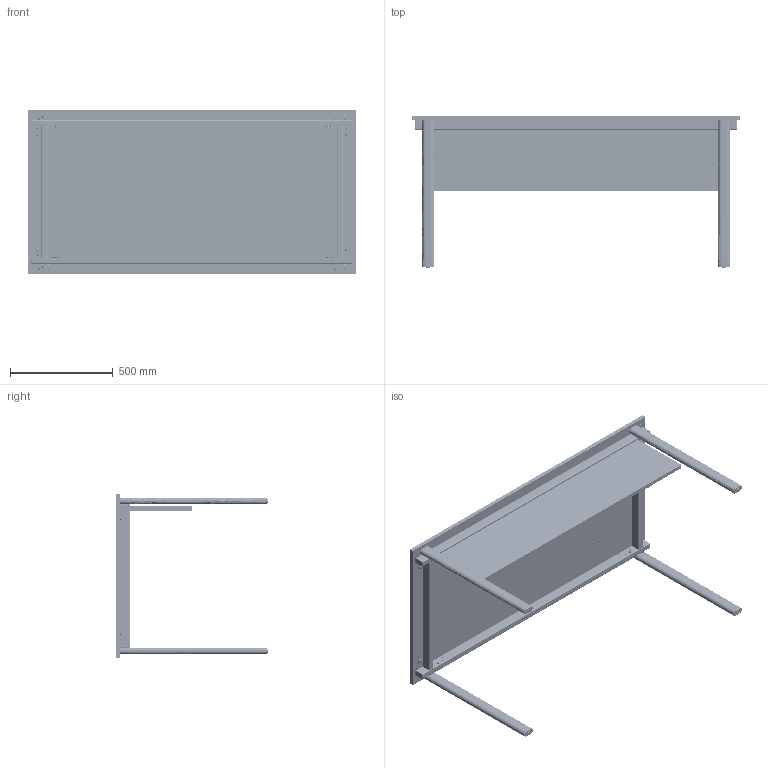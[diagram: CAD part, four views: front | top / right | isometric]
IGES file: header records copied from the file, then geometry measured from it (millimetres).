
Start section: SolidWorks IGES file using analytic representation for surfaces
Global section: file name: C:\Users\caumatel\Desktop\3D MESA TONO\MESA_INDIVIDUAL+FALDON.IGS; native system: SolidWorks 2019; preprocessor: SolidWorks 2019; author: caumatel; date: 230124.082116; units: millimetre
Bounding box: 1600 x 742 x 800 mm (x, y, z)
Surface area: 5943895 mm2 (no closed solid volume)
Topology: 0 solids, 0 shells, 6784 faces, 64320 edges, 64304 vertices
Faces by surface type: bspline 4836, revolution 1948
